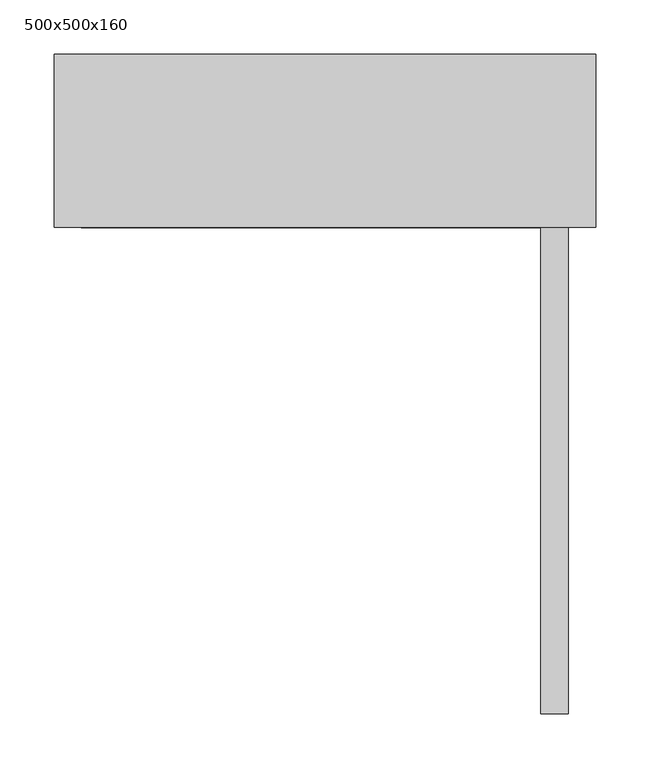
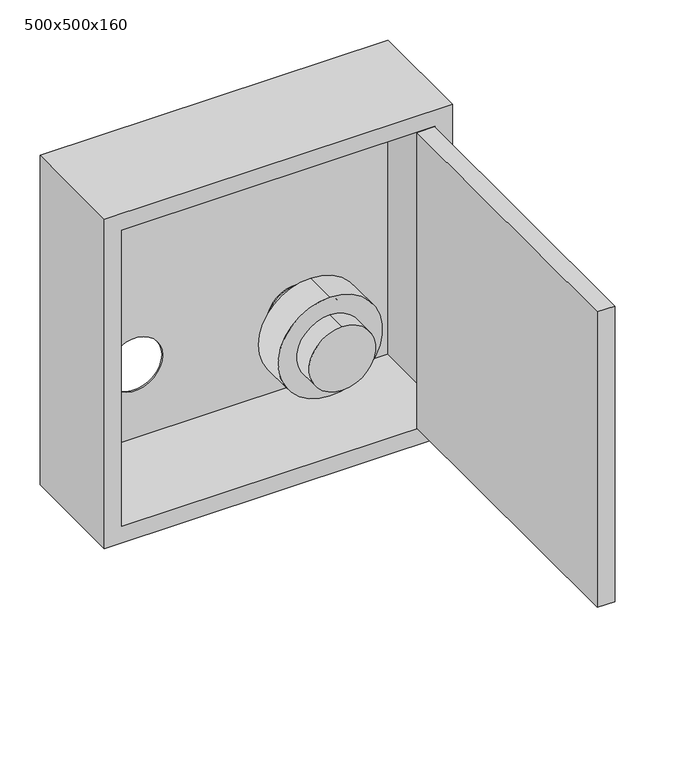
"""IFC4 building model written with IfcOpenShell, lengths in millimetres: furniture geometry, ME_UN_connection box single connection_ACO : 500x500x160."""

import ifcopenshell
import ifcopenshell.guid

model = None  # the IFC model being written
_history = None  # IfcOwnerHistory: only IFC2X3 demands one
_inside = {}  # id of a spatial element -> (the spatial element, [elements in it])
_under = {}  # id of a project, library or spatial element -> (it, [spatial elements below it])
_declared = {}  # id of a project -> (the project, [libraries it declares])
_typed = {}  # id of a type object -> (the type object, [elements of that type])
_made_of = {}  # id of a material, layer set ... -> (it, [elements and type objects made of it])


def new_model(schema):
    """Start an empty IFC model of exactly this schema.

    Asked for "IFC4X3", IfcOpenShell would pick the latest addendum, in which some entities
    have other attributes; the version numbers below select the first issue.
    IFC2X3 requires an IfcOwnerHistory on every rooted entity: one is made here for all.
    """
    global model, _history
    if schema == "IFC4X3":
        model = ifcopenshell.file(schema_version=(4, 3, 0, 0))
    else:
        model = ifcopenshell.file(schema=schema)
    _inside.clear()
    _under.clear()
    _declared.clear()
    _typed.clear()
    _made_of.clear()
    _history = None
    if model.schema == "IFC2X3":
        org = make("IfcOrganization", Name="unknown")
        user = make(
            "IfcPersonAndOrganization",
            ThePerson=make("IfcPerson", FamilyName="unknown"),
            TheOrganization=org,
        )
        app = make(
            "IfcApplication",
            ApplicationDeveloper=org,
            Version="unknown",
            ApplicationFullName="unknown",
            ApplicationIdentifier="unknown",
        )
        _history = make(
            "IfcOwnerHistory",
            OwningUser=user,
            OwningApplication=app,
            ChangeAction="ADDED",
            CreationDate=0,
        )
    return model


def make(cls, **values):
    """One entity of the class cls with the attributes given. An attribute that is None is left unset."""
    return model.create_entity(
        cls, **{name: value for name, value in values.items() if value is not None}
    )


def rooted(cls, **values):
    """An entity with a GlobalId (a new one), such as an element, a storey or a relation."""
    return make(cls, GlobalId=ifcopenshell.guid.new(), OwnerHistory=_history, **values)


def si_unit(unit_type, name, prefix=None):
    """IfcSIUnit, for example si_unit("LENGTHUNIT", "METRE", prefix="MILLI")."""
    return make("IfcSIUnit", UnitType=unit_type, Prefix=prefix, Name=name)


def assignment(units):
    """IfcUnitAssignment: the units of a project."""
    return None if units is None else make("IfcUnitAssignment", Units=units)


def point(xyz):
    """IfcCartesianPoint."""
    return None if xyz is None else make("IfcCartesianPoint", Coordinates=xyz)


def direction(xyz):
    """IfcDirection."""
    return None if xyz is None else make("IfcDirection", DirectionRatios=xyz)


def frame(location, z_axis=None, x_axis=None):
    """IfcAxis2Placement3D, a coordinate frame: its origin and axes. An axis left out is left unset."""
    return make(
        "IfcAxis2Placement3D",
        Location=point(location),
        Axis=direction(z_axis),
        RefDirection=direction(x_axis),
    )


def frame_2d(location, x_axis=None):
    """IfcAxis2Placement2D, a coordinate frame in the plane: its origin and x axis."""
    return make(
        "IfcAxis2Placement2D", Location=point(location), RefDirection=direction(x_axis)
    )


def origin():
    """The frame at (0, 0, 0) with its axes left unset."""
    return frame((0.0, 0.0, 0.0))


def place(relative_to, where):
    """IfcLocalPlacement: puts the frame where relative to a parent placement (None: the world)."""
    return make(
        "IfcLocalPlacement", PlacementRelTo=relative_to, RelativePlacement=where
    )


def context(
    kind, dimensions, precision=None, world=None, true_north=None, identifier=None
):
    """IfcGeometricRepresentationContext, for example the 3D "Model" context."""
    return make(
        "IfcGeometricRepresentationContext",
        ContextIdentifier=identifier,
        ContextType=kind,
        CoordinateSpaceDimension=dimensions,
        Precision=precision,
        WorldCoordinateSystem=world,
        TrueNorth=true_north,
    )


def project(units=None, contexts=None):
    """IfcProject with its units and contexts."""
    return rooted(
        "IfcProject",
        Name="project",
        RepresentationContexts=contexts,
        UnitsInContext=assignment(units),
    )


def spatial(cls, under=None, at=None, **own):
    """A site, building, storey or space (cls), placed at a placement, below another one or the project."""
    s = rooted(cls, ObjectPlacement=at, **own)
    if under is not None:
        _under.setdefault(under.id(), (under, []))[1].append(s)
    return s


def polyline(points):
    """IfcPolyline through the points."""
    return make("IfcPolyline", Points=[point(p) for p in points])


def circle_curve(where, radius):
    """IfcCircle in the frame where."""
    return make("IfcCircle", Position=where, Radius=radius)


def trimmed(basis, trim1, trim2, sense, master):
    """IfcTrimmedCurve: the piece of a basis curve between two trims."""
    return make(
        "IfcTrimmedCurve",
        BasisCurve=basis,
        Trim1=trim1,
        Trim2=trim2,
        SenseAgreement=sense,
        MasterRepresentation=master,
    )


def segment(curve, same_sense, transition):
    """IfcCompositeCurveSegment."""
    return make(
        "IfcCompositeCurveSegment",
        Transition=transition,
        SameSense=same_sense,
        ParentCurve=curve,
    )


def composite_curve(segments, self_intersect=None):
    """IfcCompositeCurve: segments joined end to end."""
    return make("IfcCompositeCurve", Segments=segments, SelfIntersect=self_intersect)


def outline(outer, holes=None, kind="AREA"):
    """IfcArbitraryClosedProfileDef: a profile drawn as a closed curve; with holes, ...WithVoids."""
    if holes is None:
        return make("IfcArbitraryClosedProfileDef", ProfileType=kind, OuterCurve=outer)
    return make(
        "IfcArbitraryProfileDefWithVoids",
        ProfileType=kind,
        OuterCurve=outer,
        InnerCurves=holes,
    )


def extrude(swept, where, along, depth):
    """IfcExtrudedAreaSolid: the profile swept, set in the frame where, extruded along a direction by depth."""
    return make(
        "IfcExtrudedAreaSolid",
        SweptArea=swept,
        Position=where,
        ExtrudedDirection=direction(along),
        Depth=depth,
    )


def shape(context_of_items, identifier, shape_type, items):
    """IfcShapeRepresentation: the items that make up one representation, for example the "Body"."""
    return make(
        "IfcShapeRepresentation",
        ContextOfItems=context_of_items,
        RepresentationIdentifier=identifier,
        RepresentationType=shape_type,
        Items=items,
    )


def source(mapping_origin, context_of_items, identifier, shape_type, items):
    """IfcRepresentationMap: a shape defined once, which mapped items show again and again."""
    return make(
        "IfcRepresentationMap",
        MappingOrigin=mapping_origin,
        MappedRepresentation=shape(context_of_items, identifier, shape_type, items),
    )


def transform(
    local_origin,
    x_axis=None,
    y_axis=None,
    z_axis=None,
    scale=None,
    scale2=None,
    scale3=None,
    uniform=True,
):
    """IfcCartesianTransformationOperator3D, or its non-uniform kind. x_axis, y_axis, z_axis: its Axis1, 2, 3."""
    if uniform:
        return make(
            "IfcCartesianTransformationOperator3D",
            Axis1=direction(x_axis),
            Axis2=direction(y_axis),
            LocalOrigin=point(local_origin),
            Scale=scale,
            Axis3=direction(z_axis),
        )
    return make(
        "IfcCartesianTransformationOperator3DnonUniform",
        Axis1=direction(x_axis),
        Axis2=direction(y_axis),
        LocalOrigin=point(local_origin),
        Scale=scale,
        Axis3=direction(z_axis),
        Scale2=scale2,
        Scale3=scale3,
    )


def mapped(mapping_source, mapping_target):
    """IfcMappedItem: shows the shape of a source again, moved by a transform."""
    return make(
        "IfcMappedItem", MappingSource=mapping_source, MappingTarget=mapping_target
    )


def made_of(thing, what):
    """Note that an element or type object is made of a material, layer set ...; save() writes the relation."""
    if what is not None:
        _made_of.setdefault(what.id(), (what, []))[1].append(thing)
    return thing


def element(
    cls,
    number,
    at=None,
    inside=None,
    cuts=None,
    type_object=None,
    material=None,
    context=None,
    identifier="Body",
    shape_type=None,
    held_by="IfcProductDefinitionShape",
    body=None,
    shapes=None,
    **own,
):
    """One element of the class cls, such as IfcWall. Its Tag is "e" and its number.

    at: its placement. inside: the storey or other place that contains it. cuts: it is an
    opening in that element (IfcRelVoidsElement). A single representation is given by context,
    identifier, shape_type and body (its items); several are given by shapes. held_by: the class
    of the entity that holds the representations. save() writes the other relations.
    """
    e = rooted(cls, Tag="e%d" % number, ObjectPlacement=at, **own)
    if body is not None:
        shapes = [shape(context, identifier, shape_type, body)]
    if shapes is not None:
        e.Representation = make(held_by, Representations=shapes)
    if inside is not None:
        _inside.setdefault(inside.id(), (inside, []))[1].append(e)
    if cuts is not None:
        rooted(
            "IfcRelVoidsElement", RelatingBuildingElement=cuts, RelatedOpeningElement=e
        )
    if type_object is not None:
        _typed.setdefault(type_object.id(), (type_object, []))[1].append(e)
    return made_of(e, material)


def aggregate(whole, parts):
    """IfcRelAggregates: a whole, such as a stair, and the parts it consists of."""
    return rooted("IfcRelAggregates", RelatingObject=whole, RelatedObjects=parts)


def save(model, path):
    """Write the relations noted so far, then the file.

    IfcRelAggregates (storeys below a building ...), IfcRelContainedInSpatialStructure (elements
    in a storey), IfcRelDefinesByType, IfcRelAssociatesMaterial and IfcRelDeclares: one each for
    every whole, place, type object, material and project.
    """
    for whole, parts in _under.values():
        aggregate(whole, parts)
    for where, things in _inside.values():
        rooted(
            "IfcRelContainedInSpatialStructure",
            RelatedElements=things,
            RelatingStructure=where,
        )
    for kind, things in _typed.values():
        rooted("IfcRelDefinesByType", RelatedObjects=things, RelatingType=kind)
    for what, things in _made_of.values():
        rooted("IfcRelAssociatesMaterial", RelatedObjects=things, RelatingMaterial=what)
    for by, libraries in _declared.values():
        rooted("IfcRelDeclares", RelatingContext=by, RelatedDefinitions=libraries)
    model.write(path)


def plane_surface(at):
    """IfcPlane: the flat surface through the origin of the frame at, square to its z axis."""
    return make("IfcPlane", Position=at)


def cylinder_surface(at, radius):
    """IfcCylindricalSurface: all points at the distance radius from the z axis of the frame at."""
    return make("IfcCylindricalSurface", Position=at, Radius=radius)


def revolved_surface(curve, axis_point, axis_direction):
    """IfcSurfaceOfRevolution: the curve turned about the line through axis_point along axis_direction."""
    return make(
        "IfcSurfaceOfRevolution",
        SweptCurve=make("IfcArbitraryOpenProfileDef", ProfileType="CURVE", Curve=curve),
        AxisPosition=make("IfcAxis1Placement", Location=point(axis_point), Axis=direction(axis_direction)),
    )


def advanced_brep(points, edges, surfaces, faces):
    """IfcAdvancedBrep: a solid bounded by faces that lie on surfaces and meet in shared edges.

    An edge is (start, end): straight between two places in points (the first is 0);
    or (start, end, curve); or (start, end, curve, False) where it runs against its curve.
    A face is (place in surfaces, loops), or (place, loops, False) where it looks against
    its surface's normal. A loop lists edges by number (the first is 1), with a minus sign
    where the edge is run from its end to its start. The first loop is the outer one.
    """
    corners = [point(p) for p in points]
    vertices = [make("IfcVertexPoint", VertexGeometry=c) for c in corners]
    made = []
    for start, end, *more in edges:
        made.append(
            make(
                "IfcEdgeCurve",
                EdgeStart=vertices[start],
                EdgeEnd=vertices[end],
                EdgeGeometry=more[0] if more else make("IfcPolyline", Points=[corners[start], corners[end]]),
                SameSense=more[1] if len(more) > 1 else True,
            )
        )
    hull = []
    for where, loops, *sense in faces:
        bounds = []
        for j, loop in enumerate(loops):
            ring = [make("IfcOrientedEdge", EdgeElement=made[abs(k) - 1], Orientation=k > 0) for k in loop]
            bounds.append(
                make(
                    "IfcFaceOuterBound" if j == 0 else "IfcFaceBound",
                    Bound=make("IfcEdgeLoop", EdgeList=ring),
                    Orientation=True,
                )
            )
        hull.append(make("IfcAdvancedFace", Bounds=bounds, FaceSurface=surfaces[where], SameSense=sense[0] if sense else True))
    return make("IfcAdvancedBrep", Outer=make("IfcClosedShell", CfsFaces=hull))


def furniture_500x500x160_e2bdd59b(model_context):
    return source(origin(), model_context, "Body", "SolidModel", [
        extrude(outline(composite_curve([segment(trimmed(circle_curve(frame_2d((136.5, 115.0)), 25.0), [point((111.5, 115.0))], [point((161.5, 115.0))], False, "CARTESIAN"), True, "CONTINUOUS"), segment(trimmed(circle_curve(frame_2d((136.5, 115.0)), 25.0), [point((161.5, 115.0))], [point((111.5, 115.0))], False, "CARTESIAN"), True, "CONTINUOUS")], self_intersect=False)), frame((0.0, 148.0, 0.0), z_axis=(0.0, 1.0, 0.0), x_axis=(0.0, 0.0, 1.0)), (0.0, 0.0, 1.0), 12.0),
        advanced_brep(
        [(115.0, 148.0, 88.5), (115.0, 148.0, 184.5), (115.0, 40.0, 88.5), (115.0, 40.0, 184.5), (115.0, 118.0, 184.5), (115.0, 118.0, 88.5), (115.0, 70.0, 88.5), (115.0, 70.0, 184.5), (115.0, 118.0, 61.5), (115.0, 118.0, 211.5), (115.0, 70.0, 61.5), (115.0, 70.0, 211.5)],
        [
            (0, 1, circle_curve(frame((115.0, 148.0, 136.5), z_axis=(0.0, 1.0, 0.0), x_axis=(0.0, 0.0, 1.0)), 48.0)),
            (1, 0, circle_curve(frame((115.0, 148.0, 136.5), z_axis=(0.0, 1.0, 0.0), x_axis=(0.0, 0.0, 1.0)), 48.0)),
            (2, 3, circle_curve(frame((115.0, 40.0, 136.5), z_axis=(0.0, -1.0, 0.0), x_axis=(0.0, 0.0, 1.0)), 48.0)),
            (3, 2, circle_curve(frame((115.0, 40.0, 136.5), z_axis=(0.0, -1.0, 0.0), x_axis=(0.0, 0.0, 1.0)), 48.0)),
            (1, 4),
            (4, 5, circle_curve(frame((115.0, 118.0, 136.5), z_axis=(0.0, 1.0, 0.0), x_axis=(0.0, 0.0, 1.0)), 48.0)),
            (5, 0),
            (2, 6),
            (6, 7, circle_curve(frame((115.0, 70.0, 136.5), z_axis=(0.0, -1.0, 0.0), x_axis=(0.0, 0.0, 1.0)), 48.0)),
            (7, 3),
            (5, 4, circle_curve(frame((115.0, 118.0, 136.5), z_axis=(0.0, 1.0, 0.0), x_axis=(0.0, 0.0, 1.0)), 48.0)),
            (7, 6, circle_curve(frame((115.0, 70.0, 136.5), z_axis=(0.0, -1.0, 0.0), x_axis=(0.0, 0.0, 1.0)), 48.0)),
            (8, 9, circle_curve(frame((115.0, 118.0, 136.5), z_axis=(0.0, 1.0, 0.0), x_axis=(0.0, 0.0, 1.0)), 75.0)),
            (9, 8, circle_curve(frame((115.0, 118.0, 136.5), z_axis=(0.0, 1.0, 0.0), x_axis=(0.0, 0.0, 1.0)), 75.0)),
            (10, 11, circle_curve(frame((115.0, 70.0, 136.5), z_axis=(0.0, -1.0, 0.0), x_axis=(0.0, 0.0, 1.0)), 75.0)),
            (11, 10, circle_curve(frame((115.0, 70.0, 136.5), z_axis=(0.0, -1.0, 0.0), x_axis=(0.0, 0.0, 1.0)), 75.0)),
            (9, 11),
            (10, 8),
        ],
        [
            plane_surface(frame((115.0, 148.0, 184.5), z_axis=(0.0, 1.0, 0.0), x_axis=(1.0, 0.0, 0.0))),
            plane_surface(frame((115.0, 40.0, 184.5), z_axis=(0.0, -1.0, 0.0), x_axis=(-1.0, 0.0, 0.0))),
            cylinder_surface(frame((115.0, 148.0, 136.5), z_axis=(0.0, -1.0, 0.0), x_axis=(0.0, 0.0, 1.0)), 48.0),
            plane_surface(frame((115.0, 118.0, 211.5), z_axis=(0.0, 1.0, 0.0), x_axis=(1.0, 0.0, 0.0))),
            plane_surface(frame((115.0, 70.0, 211.5), z_axis=(0.0, -1.0, 0.0), x_axis=(-1.0, 0.0, 0.0))),
            cylinder_surface(frame((115.0, 118.0, 136.5), z_axis=(0.0, -1.0, 0.0), x_axis=(0.0, 0.0, 1.0)), 75.0),
        ],
        [
            (0, [[1, 2]]),
            (1, [[3, 4]]),
            (2, [[-2, 5, 6, 7]]),
            (2, [[-3, 8, 9, 10]]),
            (2, [[-1, -7, 11, -5]]),
            (2, [[-4, -10, 12, -8]]),
            (3, [[13, 14], [-6, -11]]),
            (4, [[15, 16], [-9, -12]]),
            (5, [[-14, 17, -15, 18]]),
            (5, [[-13, -18, -16, -17]]),
        ],
    ),
        extrude(outline(polyline([(199.5, -449.0), (199.5, 0.0), (224.5, 0.0), (224.5, -449.0), (199.5, -449.0)])), frame((0.0, 0.0, 25.5), z_axis=(0.0, 0.0, 1.0), x_axis=(1.0, 0.0, 0.0)), (0.0, 0.0, 1.0), 449.0),
        advanced_brep(
        [(250.0, 160.0, 500.0), (-250.0, 160.0, 500.0), (-250.0, 0.0, 500.0), (250.0, 0.0, 500.0), (250.0, 160.0, 0.0), (250.0, 0.0, 0.0), (-250.0, 0.0, 0.0), (-250.0, 160.0, 0.0), (-155.0, 160.0, 136.5), (-75.0, 160.0, 136.5), (75.0, 160.0, 136.5), (155.0, 160.0, 136.5), (-225.0, 0.0, 475.0), (225.0, 0.0, 475.0), (225.0, 0.0, 25.0), (-225.0, 0.0, 25.0), (248.0, 158.0, 475.0), (248.0, 2.0, 475.0), (225.0, 2.0, 475.0), (-225.0, 2.0, 475.0), (-248.0, 2.0, 475.0), (-248.0, 158.0, 475.0), (248.0, 158.0, 25.0), (-248.0, 158.0, 25.0), (-248.0, 2.0, 25.0), (-225.0, 2.0, 25.0), (225.0, 2.0, 25.0), (248.0, 2.0, 25.0), (-75.0, 158.0, 136.5), (-155.0, 158.0, 136.5), (155.0, 158.0, 136.5), (75.0, 158.0, 136.5)],
        [
            (0, 1),
            (1, 2),
            (2, 3),
            (3, 0),
            (4, 5),
            (5, 6),
            (6, 7),
            (7, 4),
            (0, 4),
            (7, 1),
            (8, 9, circle_curve(frame((-115.0, 160.0, 136.5), z_axis=(0.0, -1.0, 0.0), x_axis=(1.0, 0.0, 0.0)), 40.0)),
            (9, 8, circle_curve(frame((-115.0, 160.0, 136.5), z_axis=(0.0, -1.0, 0.0), x_axis=(1.0, 0.0, 0.0)), 40.0)),
            (10, 11, circle_curve(frame((115.0, 160.0, 136.5), z_axis=(0.0, -1.0, 0.0), x_axis=(1.0, 0.0, 0.0)), 40.0)),
            (11, 10, circle_curve(frame((115.0, 160.0, 136.5), z_axis=(0.0, -1.0, 0.0), x_axis=(1.0, 0.0, 0.0)), 40.0)),
            (6, 2),
            (5, 3),
            (12, 13),
            (13, 14),
            (14, 15),
            (15, 12),
            (16, 17),
            (17, 18),
            (18, 13),
            (12, 19),
            (19, 20),
            (20, 21),
            (21, 16),
            (22, 23),
            (23, 24),
            (24, 25),
            (25, 15),
            (14, 26),
            (26, 27),
            (27, 22),
            (21, 23),
            (22, 16),
            (28, 29, circle_curve(frame((-115.0, 158.0, 136.5), z_axis=(0.0, 1.0, 0.0), x_axis=(1.0, 0.0, 0.0)), 40.0)),
            (29, 28, circle_curve(frame((-115.0, 158.0, 136.5), z_axis=(0.0, 1.0, 0.0), x_axis=(1.0, 0.0, 0.0)), 40.0)),
            (30, 31, circle_curve(frame((115.0, 158.0, 136.5), z_axis=(0.0, 1.0, 0.0), x_axis=(1.0, 0.0, 0.0)), 40.0)),
            (31, 30, circle_curve(frame((115.0, 158.0, 136.5), z_axis=(0.0, 1.0, 0.0), x_axis=(1.0, 0.0, 0.0)), 40.0)),
            (27, 17),
            (20, 24),
            (19, 25),
            (18, 26),
            (28, 9),
            (8, 29),
            (30, 11),
            (10, 31),
        ],
        [
            plane_surface(frame((-250.0, 160.0, 500.0), z_axis=(0.0, 0.0, 1.0), x_axis=(-1.0, 0.0, 0.0))),
            plane_surface(frame((-250.0, 160.0, 0.0), z_axis=(0.0, 0.0, -1.0), x_axis=(1.0, 0.0, 0.0))),
            plane_surface(frame((250.0, 160.0, 500.0), z_axis=(0.0, 1.0, 0.0), x_axis=(0.0, 0.0, -1.0))),
            plane_surface(frame((-250.0, 160.0, 500.0), z_axis=(-1.0, 0.0, 0.0), x_axis=(0.0, 0.0, -1.0))),
            plane_surface(frame((-250.0, 0.0, 500.0), z_axis=(0.0, -1.0, 0.0), x_axis=(0.0, 0.0, -1.0))),
            plane_surface(frame((250.0, 0.0, 500.0), z_axis=(1.0, 0.0, 0.0), x_axis=(0.0, 0.0, -1.0))),
            plane_surface(frame((-248.0, 158.0, 475.0), z_axis=(0.0, 0.0, -1.0), x_axis=(-1.0, 0.0, 0.0))),
            plane_surface(frame((-248.0, 158.0, 25.0), z_axis=(0.0, 0.0, 1.0), x_axis=(1.0, 0.0, 0.0))),
            plane_surface(frame((248.0, 158.0, 475.0), z_axis=(0.0, -1.0, 0.0), x_axis=(0.0, 0.0, -1.0))),
            plane_surface(frame((248.0, 2.0, 475.0), z_axis=(-1.0, 0.0, 0.0), x_axis=(0.0, 0.0, -1.0))),
            plane_surface(frame((-248.0, 158.0, 475.0), z_axis=(1.0, 0.0, 0.0), x_axis=(0.0, 0.0, -1.0))),
            plane_surface(frame((-248.0, 2.0, 475.0), z_axis=(0.0, 1.0, 0.0), x_axis=(0.0, 0.0, -1.0))),
            plane_surface(frame((-225.0, 2.0, 475.0), z_axis=(1.0, 0.0, 0.0), x_axis=(0.0, 0.0, -1.0))),
            plane_surface(frame((225.0, 0.0, 475.0), z_axis=(-1.0, 0.0, 0.0), x_axis=(0.0, 0.0, -1.0))),
            plane_surface(frame((225.0, 2.0, 475.0), z_axis=(0.0, 1.0, 0.0), x_axis=(0.0, 0.0, -1.0))),
            revolved_surface(polyline([(-75.0, 158.0, 136.5), (-75.0, 160.0, 136.5)]), (-115.0, 160.0, 136.5), (0.0, -1.0, 0.0)),
            revolved_surface(polyline([(155.0, 158.0, 136.5), (155.0, 160.0, 136.5)]), (115.0, 160.0, 136.5), (0.0, -1.0, 0.0)),
        ],
        [
            (0, [[1, 2, 3, 4]]),
            (1, [[5, 6, 7, 8]]),
            (2, [[-1, 9, -8, 10], [11, 12], [13, 14]]),
            (3, [[-2, -10, -7, 15]]),
            (4, [[-3, -15, -6, 16], [17, 18, 19, 20]]),
            (5, [[-4, -16, -5, -9]]),
            (6, [[21, 22, 23, -17, 24, 25, 26, 27]]),
            (7, [[28, 29, 30, 31, -19, 32, 33, 34]]),
            (8, [[-27, 35, -28, 36], [37, 38], [39, 40]]),
            (9, [[-21, -36, -34, 41]]),
            (10, [[-26, 42, -29, -35]]),
            (11, [[-25, 43, -30, -42]]),
            (12, [[-24, -20, -31, -43]]),
            (13, [[-23, 44, -32, -18]]),
            (14, [[-22, -41, -33, -44]]),
            (15, [[45, -11, 46, -37]]),
            (15, [[-45, -38, -46, -12]]),
            (16, [[47, -13, 48, -39]]),
            (16, [[-47, -40, -48, -14]]),
        ],
    ),
    ])


if __name__ == "__main__":
    model = new_model("IFC4")
    model_context = context("Model", 3, world=origin())
    ifc_project = project(units=[si_unit("LENGTHUNIT", "METRE", prefix="MILLI")], contexts=[model_context])
    site = spatial("IfcSite", under=ifc_project)
    building = spatial("IfcBuilding", under=site)
    placement = place(None, origin())
    furniture_500x500x160_shape = furniture_500x500x160_e2bdd59b(model_context)
    element("IfcFurniture", 1, ObjectType="ME_UN_connection box single connection_ACO : 500x500x160", at=placement, inside=building, context=model_context, shape_type="MappedRepresentation", body=[
        mapped(furniture_500x500x160_shape, transform((0.0, 0.0, 0.0), x_axis=(1.0, 0.0, 0.0), y_axis=(0.0, 1.0, 0.0), z_axis=(0.0, 0.0, 1.0))),
    ])
    save(model, "model.ifc")
